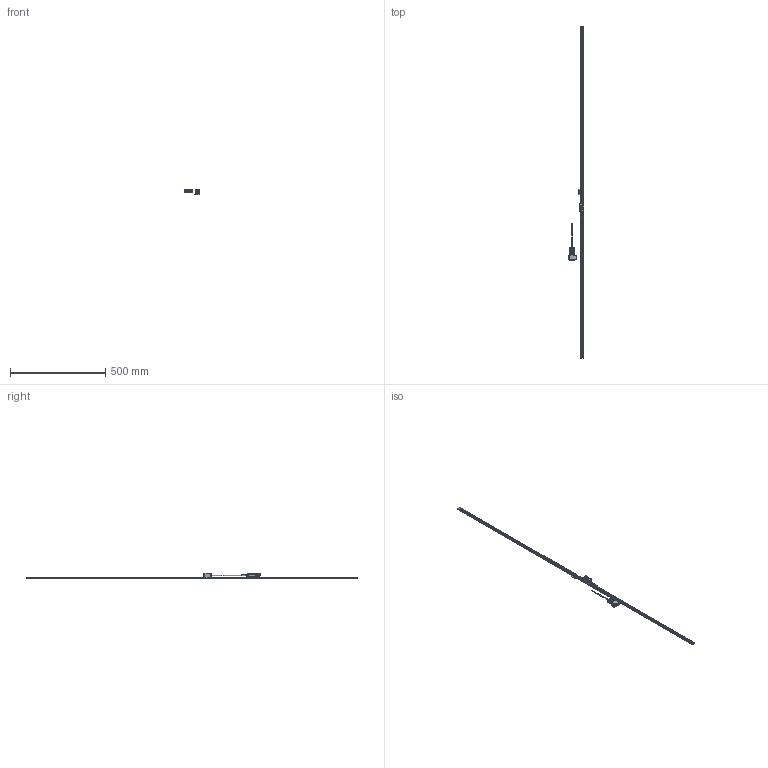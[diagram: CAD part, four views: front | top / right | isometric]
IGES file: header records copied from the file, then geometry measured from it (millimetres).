
Start section: Elysium IGES Interface
Global section: file name: 92HK:\20_商品設計\設計１課\個人\山室\05_作業中雑務\20220810_ST1300 3D HP掲載\ST1300-1700F_G.igs; native system: Creo Elements/Direct Modeling 18.1I  13-Aug-2016; preprocessor: Creo Element/Direct IGES_3D V2.2; author: Unknown; organization: Unknown; date: 20220816.110020; units: millimetre
Bounding box: 83 x 1740 x 30.1 mm (x, y, z)
Volume: 163460.3 mm3; surface area: 97714.4 mm2
Topology: 3 solids, 6 shells, 3622 faces, 9932 edges, 6466 vertices
Faces by surface type: bspline 3622
